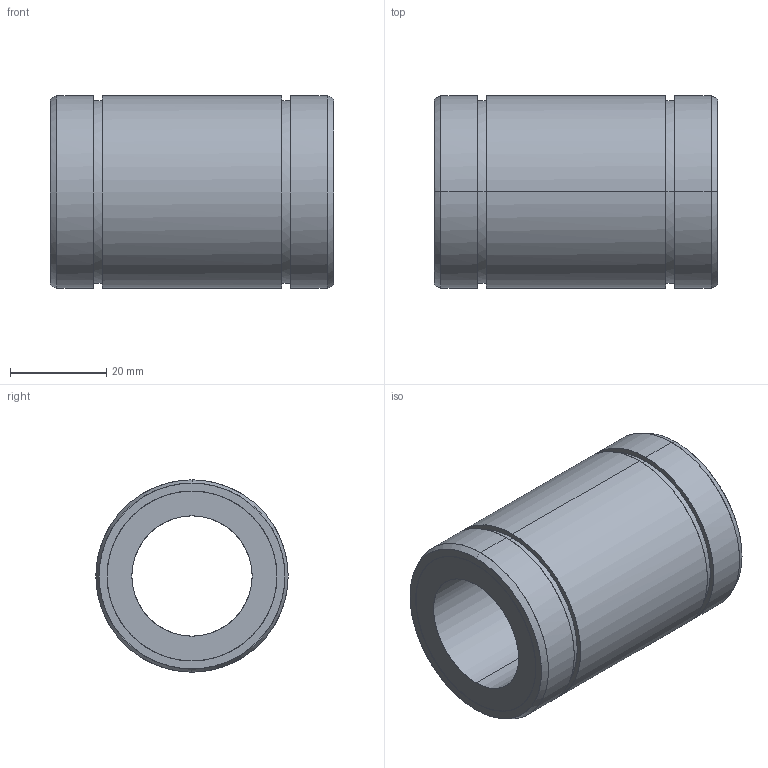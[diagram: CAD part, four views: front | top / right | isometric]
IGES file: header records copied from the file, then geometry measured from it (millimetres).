
Global section: file name: No Iges File Name specified; native system: AutoDesk Inventor R10; preprocessor: AutoDesk Inventor Iges Exporter R10; author: No Author specified; organization: No Organization specified; date: 20101208.095029; units: millimetre
Bounding box: 59 x 40 x 40 mm (x, y, z)
Surface area: 13921.6 mm2 (no closed solid volume)
Topology: 0 solids, 0 shells, 28 faces, 184 edges, 184 vertices
Faces by surface type: bspline 28
